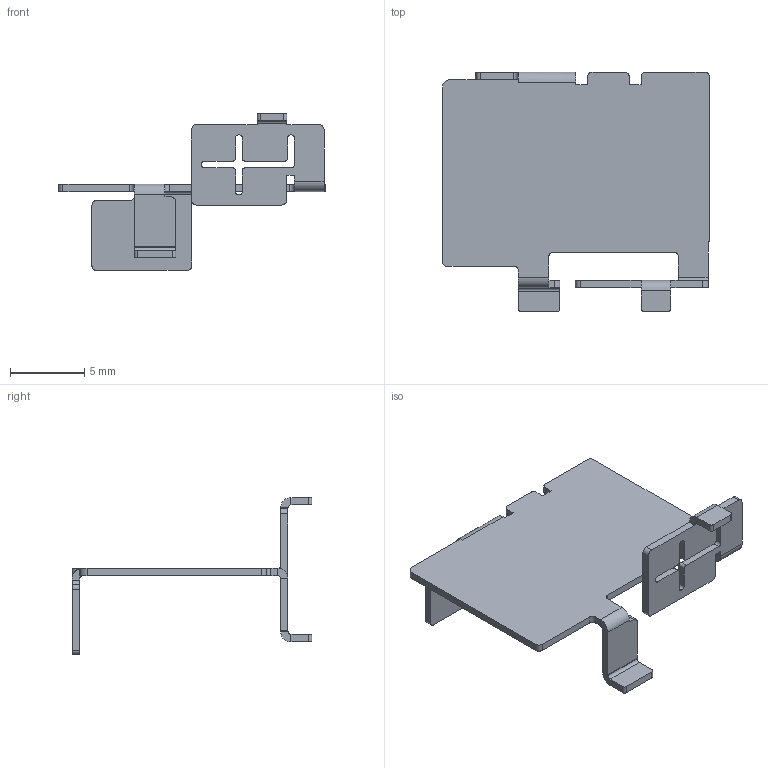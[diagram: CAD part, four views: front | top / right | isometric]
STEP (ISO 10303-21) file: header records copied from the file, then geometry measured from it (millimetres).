
FILE_DESCRIPTION((''),'2;1');
FILE_NAME('1002298_DUMMY','2019-03-13T',('mrodriguez'),(''),'CREO PARAMETRIC BY PTC INC, 2016130','CREO PARAMETRIC BY PTC INC, 2016130','');
FILE_SCHEMA(('AUTOMOTIVE_DESIGN { 1 0 10303 214 1 1 1 1 }'));
Length unit declared in the file: millimetre
Products named in the file (1): 1002298_DUMMY
Bounding box: 17.95 x 16.1 x 10.55 mm (x, y, z)
Volume: 159.7 mm3; surface area: 714.5 mm2
Topology: 1 solids, 1 shells, 125 faces, 336 edges, 213 vertices
Faces by surface type: plane 79, cylinder 46
Entity records: 5256 total; most frequent: DIRECTION 679, CARTESIAN_POINT 676, ORIENTED_EDGE 672, PRESENTATION_STYLE_ASSIGNMENT 337, STYLED_ITEM 337, CURVE_STYLE 336, EDGE_CURVE 336, VECTOR 243
